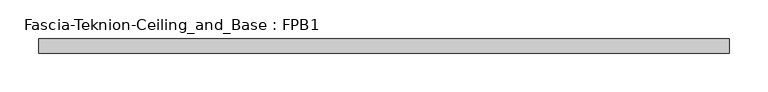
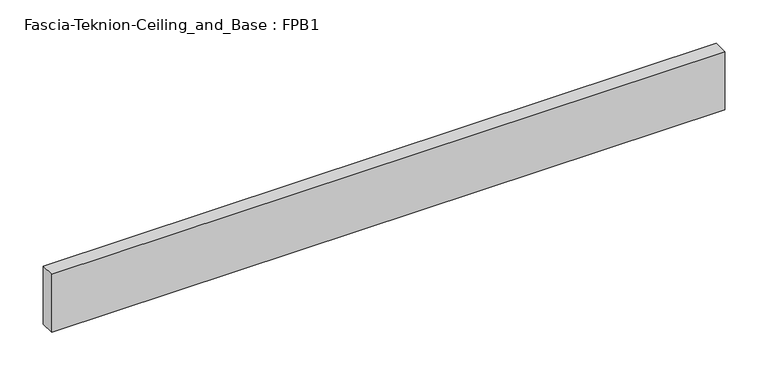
"""IFC4 building model written with IfcOpenShell, lengths in millimetres: proxy geometry, Fascia-Teknion-Ceiling_and_Base : FPB1."""

from ifc_helpers import new_model, si_unit, origin, origin_with_axes, place, context, project, spatial, polyline, outline, extrude, source, transform, mapped, element, save


def fascia_teknion_ceiling_and_base_fpb1_76749516(model_context):
    return source(origin(), model_context, "Body", "SweptSolid", [
        extrude(outline(polyline([(447.0300781, 0.0), (-447.0300781, 0.0), (-447.0300781, 19.05), (447.0300781, 19.05), (447.0300781, 0.0)])), origin_with_axes(), (0.0, 0.0, 1.0), 81.28),
    ])


if __name__ == "__main__":
    model = new_model("IFC4")
    model_context = context("Model", 3, world=origin())
    ifc_project = project(units=[si_unit("LENGTHUNIT", "METRE", prefix="MILLI")], contexts=[model_context])
    site = spatial("IfcSite", under=ifc_project)
    building = spatial("IfcBuilding", under=site)
    placement = place(None, origin())
    fascia_teknion_ceiling_and_base_fpb1_shape = fascia_teknion_ceiling_and_base_fpb1_76749516(model_context)
    element("IfcBuildingElementProxy", 1, Name="Fascia-Teknion-Ceiling_and_Base : FPB1", ObjectType="Fascia-Teknion-Ceiling_and_Base : FPB1", at=placement, inside=building, context=model_context, shape_type="MappedRepresentation", body=[
        mapped(fascia_teknion_ceiling_and_base_fpb1_shape, transform((0.0, 0.0, 0.0), x_axis=(1.0, 0.0, 0.0), y_axis=(0.0, 1.0, 0.0), z_axis=(0.0, 0.0, 1.0))),
    ])
    save(model, "model.ifc")
